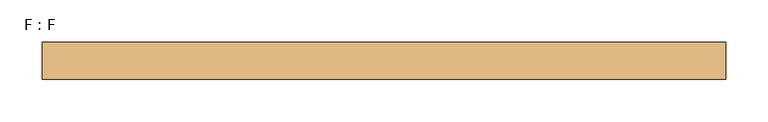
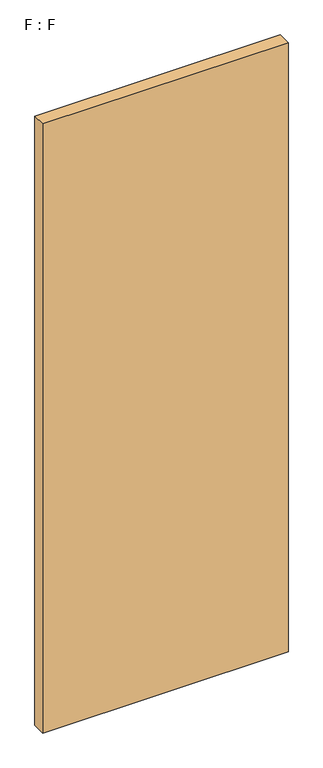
"""IFC4 building model written with IfcOpenShell, lengths in millimetres: door geometry, F : F."""

from ifc_helpers import new_model, si_unit, origin, origin_with_axes, place, context, project, spatial, polyline, outline, extrude, source, transform, mapped, element, save


def f_f_1d8f2022(model_context):
    return source(origin(), model_context, "Body", "SweptSolid", [
        extrude(outline(polyline([(-406.4, 22.225), (406.4, 22.225), (406.4, -22.225), (-406.4, -22.225), (-406.4, 22.225)])), origin_with_axes(), (0.0, 0.0, 1.0), 2133.6),
    ])


if __name__ == "__main__":
    model = new_model("IFC4")
    model_context = context("Model", 3, world=origin())
    ifc_project = project(units=[si_unit("LENGTHUNIT", "METRE", prefix="MILLI")], contexts=[model_context])
    site = spatial("IfcSite", under=ifc_project)
    building = spatial("IfcBuilding", under=site)
    placement = place(None, origin())
    f_f_shape = f_f_1d8f2022(model_context)
    element("IfcDoor", 1, ObjectType="F : F", at=placement, inside=building, context=model_context, shape_type="MappedRepresentation", body=[
        mapped(f_f_shape, transform((0.0, 0.0, 0.0), x_axis=(1.0, 0.0, 0.0), y_axis=(0.0, 1.0, 0.0), z_axis=(0.0, 0.0, 1.0))),
    ])
    save(model, "model.ifc")
